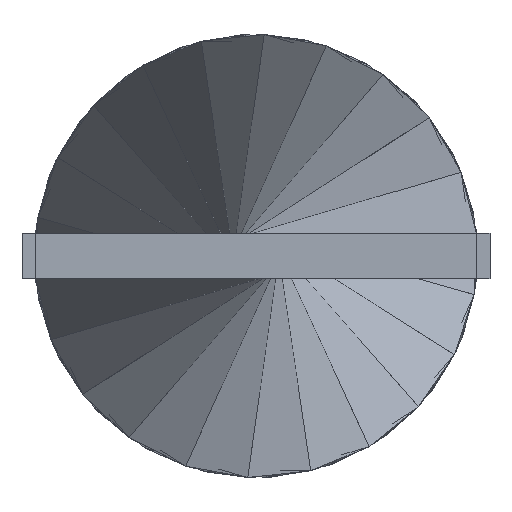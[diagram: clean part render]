
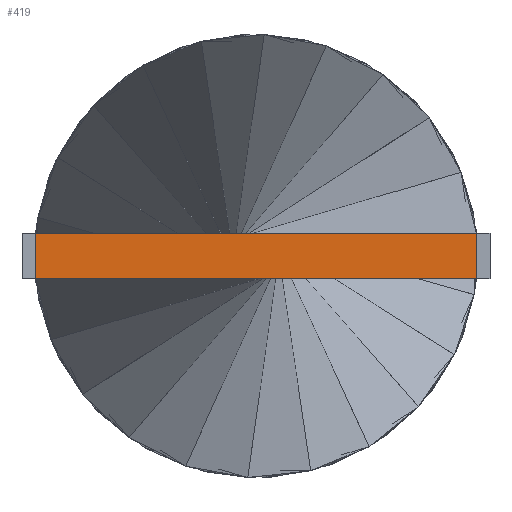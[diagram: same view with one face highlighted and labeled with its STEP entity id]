
A CAD part, front view. The second image highlights one B-rep face of the part: STEP entity #419.
In plain terms, the highlighted planar face has unit normal (0, -1, 0).
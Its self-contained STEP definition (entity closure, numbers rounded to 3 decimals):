
#94 = ORIENTED_EDGE ( 'NONE', *, *, #1078, .F. ) ;
#105 = VECTOR ( 'NONE', #587, 1000. ) ;
#149 = ORIENTED_EDGE ( 'NONE', *, *, #578, .T. ) ;
#200 = ORIENTED_EDGE ( 'NONE', *, *, #1443, .F. ) ;
#291 = CARTESIAN_POINT ( 'NONE',  ( -4.9, 0., -0.5 ) ) ;
#295 = LINE ( 'NONE', #1286, #344 ) ;
#304 = CARTESIAN_POINT ( 'NONE',  ( -4.9, 0., 0.5 ) ) ;
#344 = VECTOR ( 'NONE', #1558, 1000. ) ;
#419 = ADVANCED_FACE ( 'NONE', ( #995 ), #459, .T. ) ;
#437 = CARTESIAN_POINT ( 'NONE',  ( -4.9, 0., -0.5 ) ) ;
#453 = LINE ( 'NONE', #304, #105 ) ;
#459 = PLANE ( 'NONE',  #1176 ) ;
#578 = EDGE_CURVE ( 'NONE', #1595, #1134, #295, .T. ) ;
#587 = DIRECTION ( 'NONE',  ( 1., 0., 0. ) ) ;
#668 = LINE ( 'NONE', #291, #673 ) ;
#673 = VECTOR ( 'NONE', #1534, 1000. ) ;
#690 = CARTESIAN_POINT ( 'NONE',  ( -4.9, 0., 0.5 ) ) ;
#697 = LINE ( 'NONE', #1122, #717 ) ;
#712 = DIRECTION ( 'NONE',  ( 0., 0., -1. ) ) ;
#713 = CARTESIAN_POINT ( 'NONE',  ( 4.9, 0., 0.5 ) ) ;
#717 = VECTOR ( 'NONE', #1158, 1000. ) ;
#852 = CARTESIAN_POINT ( 'NONE',  ( 4.9, 0., -0.5 ) ) ;
#859 = VERTEX_POINT ( 'NONE', #690 ) ;
#895 = ORIENTED_EDGE ( 'NONE', *, *, #1397, .T. ) ;
#936 = DIRECTION ( 'NONE',  ( 0., -1., 0. ) ) ;
#995 = FACE_OUTER_BOUND ( 'NONE', #1354, .T. ) ;
#1078 = EDGE_CURVE ( 'NONE', #859, #1134, #453, .T. ) ;
#1122 = CARTESIAN_POINT ( 'NONE',  ( -4.9, 0., -0.5 ) ) ;
#1134 = VERTEX_POINT ( 'NONE', #713 ) ;
#1158 = DIRECTION ( 'NONE',  ( 0., 0., 1. ) ) ;
#1176 = AXIS2_PLACEMENT_3D ( 'NONE', #437, #936, #712 ) ;
#1221 = CARTESIAN_POINT ( 'NONE',  ( -4.9, 0., -0.5 ) ) ;
#1286 = CARTESIAN_POINT ( 'NONE',  ( 4.9, 0., -0.5 ) ) ;
#1354 = EDGE_LOOP ( 'NONE', ( #149, #94, #200, #895 ) ) ;
#1397 = EDGE_CURVE ( 'NONE', #1464, #1595, #668, .T. ) ;
#1443 = EDGE_CURVE ( 'NONE', #1464, #859, #697, .T. ) ;
#1464 = VERTEX_POINT ( 'NONE', #1221 ) ;
#1534 = DIRECTION ( 'NONE',  ( 1., 0., 0. ) ) ;
#1558 = DIRECTION ( 'NONE',  ( 0., 0., 1. ) ) ;
#1595 = VERTEX_POINT ( 'NONE', #852 ) ;
